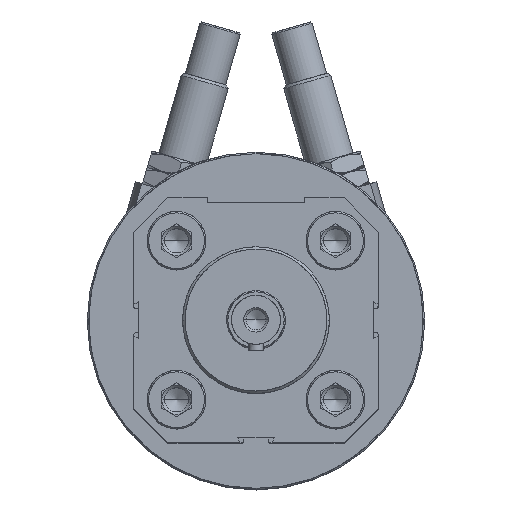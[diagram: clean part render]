
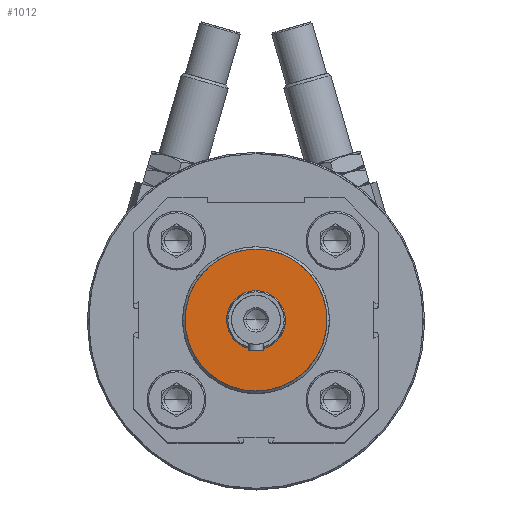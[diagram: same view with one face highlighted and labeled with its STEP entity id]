
A CAD part, top view. The second image highlights one B-rep face of the part: STEP entity #1012.
In plain terms, the highlighted face is a extrusion surface.
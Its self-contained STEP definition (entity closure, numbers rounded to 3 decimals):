
#923=CARTESIAN_POINT('Control Point',(-14.964,-14.674,164.)) ;
#924=CARTESIAN_POINT('Control Point',(14.964,-14.674,164.)) ;
#929=CARTESIAN_POINT('Control Point',(0.,14.5,164.)) ;
#930=CARTESIAN_POINT('Control Point',(-2.985,14.5,164.)) ;
#931=CARTESIAN_POINT('Control Point',(-5.969,13.732,164.)) ;
#932=CARTESIAN_POINT('Control Point',(-8.69,12.194,164.)) ;
#933=CARTESIAN_POINT('Control Point',(-11.985,8.951,164.)) ;
#934=CARTESIAN_POINT('Control Point',(-13.799,4.818,164.)) ;
#935=CARTESIAN_POINT('Control Point',(-14.222,3.369,164.)) ;
#936=CARTESIAN_POINT('Control Point',(-14.919,-1.091,164.)) ;
#937=CARTESIAN_POINT('Control Point',(-13.888,-5.597,164.)) ;
#938=CARTESIAN_POINT('Control Point',(-12.424,-8.358,164.)) ;
#939=CARTESIAN_POINT('Control Point',(-9.161,-11.857,164.)) ;
#940=CARTESIAN_POINT('Control Point',(-4.902,-13.797,164.)) ;
#941=CARTESIAN_POINT('Control Point',(-3.297,-14.266,164.)) ;
#942=CARTESIAN_POINT('Control Point',(-1.649,-14.5,164.)) ;
#943=CARTESIAN_POINT('Control Point',(0.,-14.5,164.)) ;
#944=CARTESIAN_POINT('Vertex',(0.,14.5,164.)) ;
#946=CARTESIAN_POINT('Vertex',(0.,-14.5,164.)) ;
#950=CARTESIAN_POINT('Control Point',(0.,-14.5,164.)) ;
#951=CARTESIAN_POINT('Control Point',(1.492,-14.5,164.)) ;
#952=CARTESIAN_POINT('Control Point',(2.985,-14.308,164.)) ;
#953=CARTESIAN_POINT('Control Point',(4.444,-13.924,164.)) ;
#954=CARTESIAN_POINT('Control Point',(8.625,-12.222,164.)) ;
#955=CARTESIAN_POINT('Control Point',(11.955,-9.015,164.)) ;
#956=CARTESIAN_POINT('Control Point',(13.566,-6.337,164.)) ;
#957=CARTESIAN_POINT('Control Point',(15.262,-0.411,164.)) ;
#958=CARTESIAN_POINT('Control Point',(13.888,5.597,164.)) ;
#959=CARTESIAN_POINT('Control Point',(12.424,8.358,164.)) ;
#960=CARTESIAN_POINT('Control Point',(9.161,11.857,164.)) ;
#961=CARTESIAN_POINT('Control Point',(4.902,13.797,164.)) ;
#962=CARTESIAN_POINT('Control Point',(3.297,14.266,164.)) ;
#963=CARTESIAN_POINT('Control Point',(1.649,14.5,164.)) ;
#964=CARTESIAN_POINT('Control Point',(0.,14.5,164.)) ;
#971=CARTESIAN_POINT('Control Point',(0.,6.,164.)) ;
#972=CARTESIAN_POINT('Control Point',(1.2,6.,164.)) ;
#973=CARTESIAN_POINT('Control Point',(2.4,5.7,164.)) ;
#974=CARTESIAN_POINT('Control Point',(3.5,5.099,164.)) ;
#975=CARTESIAN_POINT('Control Point',(4.851,3.828,164.)) ;
#976=CARTESIAN_POINT('Control Point',(5.634,2.192,164.)) ;
#977=CARTESIAN_POINT('Control Point',(5.825,1.616,164.)) ;
#978=CARTESIAN_POINT('Control Point',(6.177,-0.163,164.)) ;
#979=CARTESIAN_POINT('Control Point',(5.855,-1.991,164.)) ;
#980=CARTESIAN_POINT('Control Point',(5.334,-3.13,164.)) ;
#981=CARTESIAN_POINT('Control Point',(4.051,-4.704,164.)) ;
#982=CARTESIAN_POINT('Control Point',(2.283,-5.629,164.)) ;
#983=CARTESIAN_POINT('Control Point',(1.54,-5.877,164.)) ;
#984=CARTESIAN_POINT('Control Point',(0.77,-6.,164.)) ;
#985=CARTESIAN_POINT('Control Point',(0.,-6.,164.)) ;
#986=CARTESIAN_POINT('Vertex',(0.,6.,164.)) ;
#988=CARTESIAN_POINT('Vertex',(0.,-6.,164.)) ;
#992=CARTESIAN_POINT('Control Point',(0.,-6.,164.)) ;
#993=CARTESIAN_POINT('Control Point',(-1.2,-6.,164.)) ;
#994=CARTESIAN_POINT('Control Point',(-2.4,-5.7,164.)) ;
#995=CARTESIAN_POINT('Control Point',(-3.5,-5.099,164.)) ;
#996=CARTESIAN_POINT('Control Point',(-4.851,-3.828,164.)) ;
#997=CARTESIAN_POINT('Control Point',(-5.634,-2.192,164.)) ;
#998=CARTESIAN_POINT('Control Point',(-5.825,-1.616,164.)) ;
#999=CARTESIAN_POINT('Control Point',(-6.177,0.163,164.)) ;
#1000=CARTESIAN_POINT('Control Point',(-5.855,1.991,164.)) ;
#1001=CARTESIAN_POINT('Control Point',(-5.334,3.13,164.)) ;
#1002=CARTESIAN_POINT('Control Point',(-4.051,4.704,164.)) ;
#1003=CARTESIAN_POINT('Control Point',(-2.283,5.629,164.)) ;
#1004=CARTESIAN_POINT('Control Point',(-1.54,5.877,164.)) ;
#1005=CARTESIAN_POINT('Control Point',(-0.77,6.,164.)) ;
#1006=CARTESIAN_POINT('Control Point',(0.,6.,164.)) ;
#925=DIRECTION('Vector Direction',(0.,1.,0.)) ;
#926=VECTOR('Extrusion Surface Vector',#925,1.) ;
#967=ORIENTED_EDGE('',*,*,#948,.T.) ;
#968=ORIENTED_EDGE('',*,*,#965,.T.) ;
#1009=ORIENTED_EDGE('',*,*,#990,.T.) ;
#1010=ORIENTED_EDGE('',*,*,#1007,.T.) ;
#1011=FACE_BOUND('',#1008,.T.) ;
#1012=ADVANCED_FACE('Surface.8',(#969,#1011),#927,.T.) ;
#922=B_SPLINE_CURVE_WITH_KNOTS('',1,(#923,#924),.UNSPECIFIED.,.F.,.U.,(2,2),(-14.964,14.964),.UNSPECIFIED.) ;
#928=B_SPLINE_CURVE_WITH_KNOTS('',5,(#929,#930,#931,#932,#933,#934,#935,#936,#937,#938,#939,#940,#941,#942,#943),.UNSPECIFIED.,.F.,.U.,(6,3,3,3,6),(0.,21.105,31.658,52.763,64.421),.UNSPECIFIED.) ;
#949=B_SPLINE_CURVE_WITH_KNOTS('',5,(#950,#951,#952,#953,#954,#955,#956,#957,#958,#959,#960,#961,#962,#963,#964),.UNSPECIFIED.,.F.,.U.,(6,3,3,3,6),(0.,10.553,31.658,52.763,64.421),.UNSPECIFIED.) ;
#970=B_SPLINE_CURVE_WITH_KNOTS('',5,(#971,#972,#973,#974,#975,#976,#977,#978,#979,#980,#981,#982,#983,#984,#985),.UNSPECIFIED.,.F.,.U.,(6,3,3,3,6),(0.,8.485,12.728,21.213,26.657),.UNSPECIFIED.) ;
#991=B_SPLINE_CURVE_WITH_KNOTS('',5,(#992,#993,#994,#995,#996,#997,#998,#999,#1000,#1001,#1002,#1003,#1004,#1005,#1006),.UNSPECIFIED.,.F.,.U.,(6,3,3,3,6),(0.,8.485,12.728,21.213,26.657),.UNSPECIFIED.) ;
#948=EDGE_CURVE('',#945,#947,#928,.T.) ;
#965=EDGE_CURVE('',#947,#945,#949,.T.) ;
#990=EDGE_CURVE('',#987,#989,#970,.T.) ;
#1007=EDGE_CURVE('',#989,#987,#991,.T.) ;
#966=EDGE_LOOP('',(#967,#968)) ;
#1008=EDGE_LOOP('',(#1009,#1010)) ;
#969=FACE_OUTER_BOUND('',#966,.T.) ;
#927=SURFACE_OF_LINEAR_EXTRUSION('generated tabulated cylinder',#922,#926) ;
#945=VERTEX_POINT('',#944) ;
#947=VERTEX_POINT('',#946) ;
#987=VERTEX_POINT('',#986) ;
#989=VERTEX_POINT('',#988) ;
